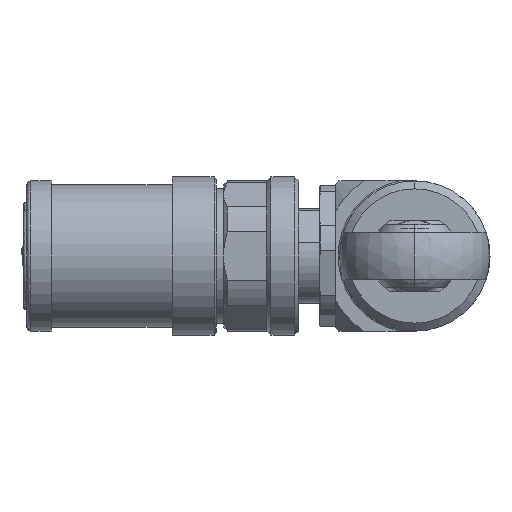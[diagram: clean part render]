
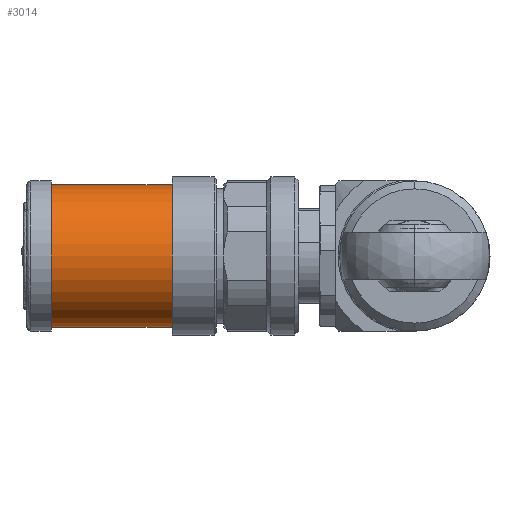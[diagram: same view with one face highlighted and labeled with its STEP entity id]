
A CAD part, left-side view. The second image highlights one B-rep face of the part: STEP entity #3014.
In plain terms, the highlighted cylindrical face has radius 9 mm (diameter 18 mm), a partial arc.
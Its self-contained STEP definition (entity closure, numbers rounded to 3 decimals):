
#127 = AXIS2_PLACEMENT_3D ( 'NONE', #4119, #639, #3973 ) ;
#393 = ORIENTED_EDGE ( 'NONE', *, *, #5690, .T. ) ;
#532 = CARTESIAN_POINT ( 'NONE',  ( -44.5, 51.04, 0. ) ) ;
#639 = DIRECTION ( 'NONE',  ( 0., -1., 0. ) ) ;
#1114 = VECTOR ( 'NONE', #6257, 1000. ) ;
#1149 = FACE_OUTER_BOUND ( 'NONE', #6094, .T. ) ;
#1218 = CYLINDRICAL_SURFACE ( 'NONE', #7391, 9. ) ;
#1480 = CIRCLE ( 'NONE', #127, 9. ) ;
#1611 = VERTEX_POINT ( 'NONE', #6365 ) ;
#2332 = DIRECTION ( 'NONE',  ( 0., 0., 1. ) ) ;
#2337 = AXIS2_PLACEMENT_3D ( 'NONE', #3314, #7325, #6089 ) ;
#2768 = VERTEX_POINT ( 'NONE', #7275 ) ;
#3014 = ADVANCED_FACE ( 'NONE', ( #1149 ), #1218, .T. ) ;
#3314 = CARTESIAN_POINT ( 'NONE',  ( -44.5, 30.7, 0. ) ) ;
#3386 = EDGE_CURVE ( 'NONE', #5727, #2768, #1480, .T. ) ;
#3679 = CIRCLE ( 'NONE', #2337, 9. ) ;
#3859 = CARTESIAN_POINT ( 'NONE',  ( -44.5, 51.04, -9. ) ) ;
#3973 = DIRECTION ( 'NONE',  ( 0., 0., 1. ) ) ;
#4119 = CARTESIAN_POINT ( 'NONE',  ( -44.5, 46., 0. ) ) ;
#4506 = CARTESIAN_POINT ( 'NONE',  ( -44.5, 51.04, 9. ) ) ;
#4885 = ORIENTED_EDGE ( 'NONE', *, *, #3386, .T. ) ;
#4933 = CARTESIAN_POINT ( 'NONE',  ( -44.5, 30.7, -9. ) ) ;
#5161 = ORIENTED_EDGE ( 'NONE', *, *, #6584, .F. ) ;
#5690 = EDGE_CURVE ( 'NONE', #2768, #6008, #6725, .T. ) ;
#5727 = VERTEX_POINT ( 'NONE', #6100 ) ;
#6008 = VERTEX_POINT ( 'NONE', #4933 ) ;
#6062 = EDGE_CURVE ( 'NONE', #6008, #1611, #3679, .T. ) ;
#6089 = DIRECTION ( 'NONE',  ( 0., 0., 1. ) ) ;
#6094 = EDGE_LOOP ( 'NONE', ( #4885, #393, #6869, #5161 ) ) ;
#6100 = CARTESIAN_POINT ( 'NONE',  ( -44.5, 46., 9. ) ) ;
#6257 = DIRECTION ( 'NONE',  ( 0., -1., 0. ) ) ;
#6365 = CARTESIAN_POINT ( 'NONE',  ( -44.5, 30.7, 9. ) ) ;
#6384 = VECTOR ( 'NONE', #6805, 1000. ) ;
#6584 = EDGE_CURVE ( 'NONE', #5727, #1611, #6956, .T. ) ;
#6725 = LINE ( 'NONE', #3859, #6384 ) ;
#6805 = DIRECTION ( 'NONE',  ( 0., -1., 0. ) ) ;
#6869 = ORIENTED_EDGE ( 'NONE', *, *, #6062, .T. ) ;
#6956 = LINE ( 'NONE', #4506, #1114 ) ;
#7275 = CARTESIAN_POINT ( 'NONE',  ( -44.5, 46., -9. ) ) ;
#7325 = DIRECTION ( 'NONE',  ( 0., 1., 0. ) ) ;
#7391 = AXIS2_PLACEMENT_3D ( 'NONE', #532, #7609, #2332 ) ;
#7609 = DIRECTION ( 'NONE',  ( 0., -1., 0. ) ) ;
